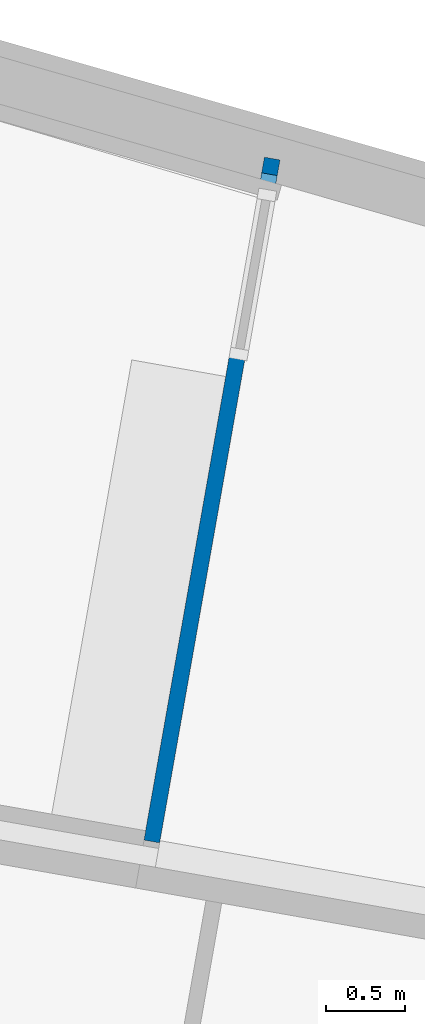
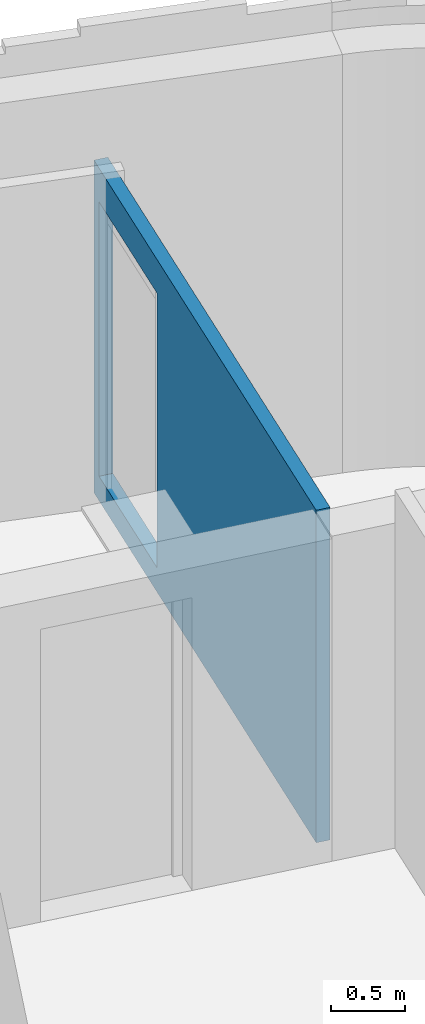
# One storey, part 16 of 21: 1 wall.
"""IFC2X3 building model written with IfcOpenShell, lengths in millimetres."""

from ifc_helpers import new_model, entity, si_unit, converted_unit, derived_unit, direction, frame, origin, place, context, subcontext, project, spatial, faceted_brep, material, layer, layer_set, type_object, element, save


model = new_model("IFC2X3")

# Units and contexts
model_context = context("Model", 3, precision=0.01, world=origin(), true_north=direction((6.12303176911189e-17, 1.0)))
body_context = subcontext(model_context, "Body", "Model", "MODEL_VIEW")
ifc_project = project(units=[si_unit("LENGTHUNIT", "METRE", prefix="MILLI"), si_unit("AREAUNIT", "SQUARE_METRE"), si_unit("VOLUMEUNIT", "CUBIC_METRE"), converted_unit("PLANEANGLEUNIT", "DEGREE", entity("IfcRatioMeasure", 0.0174532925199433), si_unit("PLANEANGLEUNIT", "RADIAN"), dimensions=[0, 0, 0, 0, 0, 0, 0]), si_unit("MASSUNIT", "GRAM", prefix="KILO"), derived_unit("MASSDENSITYUNIT", [(si_unit("MASSUNIT", "GRAM", prefix="KILO"), 1), (si_unit("LENGTHUNIT", "METRE"), -3)]), si_unit("TIMEUNIT", "SECOND"), si_unit("FREQUENCYUNIT", "HERTZ"), si_unit("THERMODYNAMICTEMPERATUREUNIT", "DEGREE_CELSIUS"), derived_unit("THERMALTRANSMITTANCEUNIT", [(si_unit("MASSUNIT", "GRAM", prefix="KILO"), 1), (si_unit("THERMODYNAMICTEMPERATUREUNIT", "KELVIN"), -1), (si_unit("TIMEUNIT", "SECOND"), -3)]), derived_unit("VOLUMETRICFLOWRATEUNIT", [(si_unit("LENGTHUNIT", "METRE"), 3), (si_unit("TIMEUNIT", "SECOND"), -1)]), si_unit("ELECTRICCURRENTUNIT", "AMPERE"), si_unit("ELECTRICVOLTAGEUNIT", "VOLT"), si_unit("POWERUNIT", "WATT"), si_unit("FORCEUNIT", "NEWTON", prefix="KILO"), si_unit("ILLUMINANCEUNIT", "LUX"), si_unit("LUMINOUSFLUXUNIT", "LUMEN"), si_unit("LUMINOUSINTENSITYUNIT", "CANDELA"), derived_unit("USERDEFINED", [(si_unit("MASSUNIT", "GRAM", prefix="KILO"), -1), (si_unit("LENGTHUNIT", "METRE"), -2), (si_unit("TIMEUNIT", "SECOND"), 3), (si_unit("LUMINOUSFLUXUNIT", "LUMEN"), 1)]), derived_unit("LINEARVELOCITYUNIT", [(si_unit("LENGTHUNIT", "METRE"), 1), (si_unit("TIMEUNIT", "SECOND"), -1)]), si_unit("PRESSUREUNIT", "PASCAL"), derived_unit("USERDEFINED", [(si_unit("LENGTHUNIT", "METRE"), -2), (si_unit("MASSUNIT", "GRAM", prefix="KILO"), 1), (si_unit("TIMEUNIT", "SECOND"), -2)])], contexts=[model_context])

# Site, building, storey
site_placement = place(None, origin())
site = spatial("IfcSite", under=ifc_project, at=site_placement, Name="<Kadaster Gemeente>;<Kadaster nummer>;<Kadaster sectie>", CompositionType="ELEMENT")
building_placement = place(site_placement, origin())
building = spatial("IfcBuilding", under=site, at=building_placement, Name="JRCZ Middelburg", CompositionType="ELEMENT")
storey_placement = place(building_placement, origin())
storey = spatial("IfcBuildingStorey", under=building, at=storey_placement, Name="00 begane grond", CompositionType="ELEMENT", Elevation=0.0)

# Wall
ifc_material = material(Name="RBM_n7_isolatie_hsb_100")
ifc_layer = layer(ifc_material, 100.0)
ifc_layer_set = layer_set([ifc_layer], Name="Basic Wall:22_WA_hsb-buitenwand_100mm 2")
wall_type = type_object("IfcWallType", Name="Basic Wall:22_WA_hsb-buitenwand_100mm 2", PredefinedType="STANDARD", material=ifc_layer_set)
wall_placement = place(storey_placement, frame((27965.815816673, 23213.0150913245, -50.0), z_axis=(0.0, 0.0, 1.0), x_axis=(-0.17364817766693, -0.984807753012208, 0.0)))
element("IfcWall", 1, at=wall_placement, inside=storey, type_object=wall_type, material=ifc_material, Name="Basic Wall:22_WA_hsb-buitenwand_100mm 2", ObjectType="Basic Wall:22_WA_hsb-buitenwand_100mm 2", context=body_context, shape_type="Brep", body=[
    faceted_brep([(0.0, -50.0, 0.0), (4303.7099383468, -50.0, 0.0), (4303.70993834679, -50.0, 2695.0), (4363.7099383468, -50.0, 2695.0), (4363.7099383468, -50.0, 2726.0), (0.0, -50.0, 2726.0), (100.214848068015, -50.0, 2450.0), (1242.61693780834, -50.0, 2450.0), (1242.61693780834, -50.0, 200.0), (100.214848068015, -50.0, 200.0), (4363.7099383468, 50.0, 0.0), (0.0, 50.0, 0.0), (0.0, 50.0, 2726.0), (4363.7099383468, 50.0, 2726.0), (4363.70993834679, 50.0, 2695.0), (1242.61693780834, 50.0, 2450.0), (100.214848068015, 50.0, 2450.0), (100.214848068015, 50.0, 200.0), (1242.61693780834, 50.0, 200.0), (4303.70993834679, -49.4205888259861, 0.0), (4303.70993834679, -49.4205888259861, 2695.0), (4363.7099383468, -49.4205888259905, 2695.0), (4363.7099383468, -49.4205888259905, 0.0)], [[[0, 1, 2, 3, 4, 5], [6, 7, 8, 9]], [[10, 11, 12, 13, 14], [15, 16, 17, 18]], [[2, 1, 19, 20]], [[4, 3, 21, 14, 13]], [[1, 0, 11, 10, 22, 19]], [[5, 4, 13, 12]], [[0, 5, 12, 11]], [[7, 6, 16, 15]], [[8, 7, 15, 18]], [[9, 8, 18, 17]], [[6, 9, 17, 16]], [[19, 22, 21, 20]], [[10, 14, 21, 22]], [[3, 2, 20, 21]]]),
])

save(model, "model.ifc")
